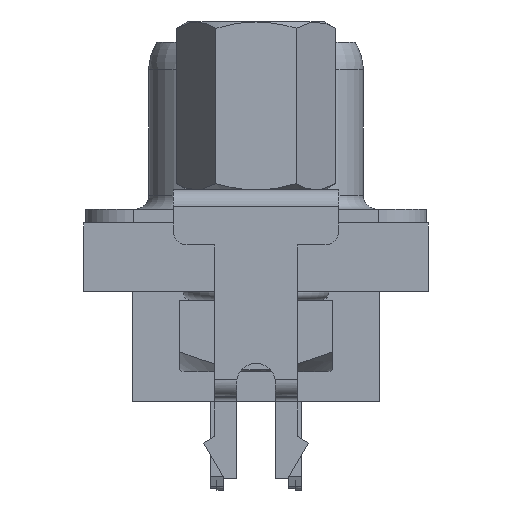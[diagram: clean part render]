
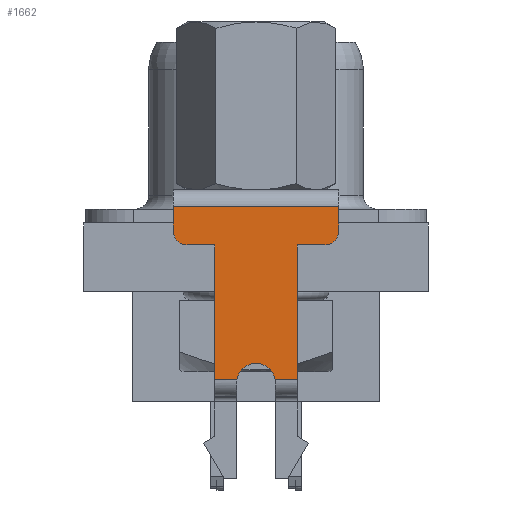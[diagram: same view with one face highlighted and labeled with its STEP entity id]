
A CAD part, left-side view. The second image highlights one B-rep face of the part: STEP entity #1662.
In plain terms, the highlighted planar face has unit normal (-1, 0, 0).
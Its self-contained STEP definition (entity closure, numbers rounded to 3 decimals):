
#243 = DIRECTION ( 'NONE',  ( 0., -1., 0. ) ) ;
#282 = VECTOR ( 'NONE', #8074, 1000. ) ;
#582 = DIRECTION ( 'NONE',  ( 0., 0., 1. ) ) ;
#718 = ORIENTED_EDGE ( 'NONE', *, *, #6877, .F. ) ;
#1061 = VERTEX_POINT ( 'NONE', #9682 ) ;
#1148 = DIRECTION ( 'NONE',  ( -1., 0., 0. ) ) ;
#1155 = ORIENTED_EDGE ( 'NONE', *, *, #9116, .F. ) ;
#1354 = LINE ( 'NONE', #11446, #282 ) ;
#1662 = ADVANCED_FACE ( 'NONE', ( #8067 ), #1905, .T. ) ;
#1827 = CARTESIAN_POINT ( 'NONE',  ( -20.16, -1.5, 1.7 ) ) ;
#1905 = PLANE ( 'NONE',  #10714 ) ;
#2019 = ORIENTED_EDGE ( 'NONE', *, *, #14939, .T. ) ;
#2081 = LINE ( 'NONE', #12753, #12515 ) ;
#2125 = VERTEX_POINT ( 'NONE', #1827 ) ;
#2364 = CARTESIAN_POINT ( 'NONE',  ( -20.16, -1.5, -3.2 ) ) ;
#2370 = CARTESIAN_POINT ( 'NONE',  ( -20.16, -3., 2.2 ) ) ;
#2427 = VERTEX_POINT ( 'NONE', #5953 ) ;
#2582 = ORIENTED_EDGE ( 'NONE', *, *, #16969, .T. ) ;
#3381 = ORIENTED_EDGE ( 'NONE', *, *, #5709, .T. ) ;
#3387 = AXIS2_PLACEMENT_3D ( 'NONE', #20520, #17302, #243 ) ;
#3630 = CIRCLE ( 'NONE', #3387, 0.5 ) ;
#3975 = LINE ( 'NONE', #20853, #9866 ) ;
#4484 = VECTOR ( 'NONE', #6021, 1000. ) ;
#4535 = ORIENTED_EDGE ( 'NONE', *, *, #5613, .T. ) ;
#5032 = VERTEX_POINT ( 'NONE', #15316 ) ;
#5190 = LINE ( 'NONE', #15696, #6806 ) ;
#5273 = DIRECTION ( 'NONE',  ( 0., 1., 0. ) ) ;
#5479 = EDGE_CURVE ( 'NONE', #12957, #21741, #3975, .T. ) ;
#5613 = EDGE_CURVE ( 'NONE', #7704, #1061, #20013, .T. ) ;
#5709 = EDGE_CURVE ( 'NONE', #21562, #2427, #17876, .T. ) ;
#5805 = DIRECTION ( 'NONE',  ( 0., -1., 0. ) ) ;
#5953 = CARTESIAN_POINT ( 'NONE',  ( -20.16, -3., 3.1 ) ) ;
#5963 = CARTESIAN_POINT ( 'NONE',  ( -20.16, -3., -6.8 ) ) ;
#6021 = DIRECTION ( 'NONE',  ( 0., 1., 0. ) ) ;
#6246 = LINE ( 'NONE', #18771, #13944 ) ;
#6480 = CARTESIAN_POINT ( 'NONE',  ( -20.16, 3., 2.2 ) ) ;
#6642 = VECTOR ( 'NONE', #14435, 1000. ) ;
#6774 = DIRECTION ( 'NONE',  ( -1., 0., 0. ) ) ;
#6806 = VECTOR ( 'NONE', #5273, 1000. ) ;
#6877 = EDGE_CURVE ( 'NONE', #7704, #5032, #7507, .T. ) ;
#7506 = DIRECTION ( 'NONE',  ( 0., -1., 0. ) ) ;
#7507 = CIRCLE ( 'NONE', #20255, 0.7 ) ;
#7536 = ORIENTED_EDGE ( 'NONE', *, *, #5479, .F. ) ;
#7647 = DIRECTION ( 'NONE',  ( -1., 0., 0. ) ) ;
#7704 = VERTEX_POINT ( 'NONE', #13668 ) ;
#7731 = CARTESIAN_POINT ( 'NONE',  ( -20.16, -3., 1.7 ) ) ;
#7973 = CIRCLE ( 'NONE', #10274, 0.5 ) ;
#8067 = FACE_OUTER_BOUND ( 'NONE', #19639, .T. ) ;
#8074 = DIRECTION ( 'NONE',  ( 0., -1., 0. ) ) ;
#8230 = VECTOR ( 'NONE', #19929, 1000. ) ;
#8581 = EDGE_CURVE ( 'NONE', #21843, #17294, #2081, .T. ) ;
#8680 = EDGE_CURVE ( 'NONE', #2427, #17294, #17599, .T. ) ;
#8774 = VECTOR ( 'NONE', #7506, 1000. ) ;
#8872 = EDGE_CURVE ( 'NONE', #19812, #21562, #7973, .T. ) ;
#9116 = EDGE_CURVE ( 'NONE', #19812, #2125, #16242, .T. ) ;
#9682 = CARTESIAN_POINT ( 'NONE',  ( -20.16, -1.5, -3.2 ) ) ;
#9866 = VECTOR ( 'NONE', #10612, 1000. ) ;
#10023 = ORIENTED_EDGE ( 'NONE', *, *, #8581, .F. ) ;
#10274 = AXIS2_PLACEMENT_3D ( 'NONE', #17004, #6774, #15484 ) ;
#10612 = DIRECTION ( 'NONE',  ( 0., 0., 1. ) ) ;
#10714 = AXIS2_PLACEMENT_3D ( 'NONE', #13837, #1148, #16840 ) ;
#11434 = CARTESIAN_POINT ( 'NONE',  ( -20.16, 1.5, -3.2 ) ) ;
#11446 = CARTESIAN_POINT ( 'NONE',  ( -20.16, 0.7, -3.2 ) ) ;
#11449 = ORIENTED_EDGE ( 'NONE', *, *, #17489, .F. ) ;
#12515 = VECTOR ( 'NONE', #582, 1000. ) ;
#12753 = CARTESIAN_POINT ( 'NONE',  ( -20.16, 3., -6.8 ) ) ;
#12817 = CARTESIAN_POINT ( 'NONE',  ( -20.16, 1.5, 1.7 ) ) ;
#12957 = VERTEX_POINT ( 'NONE', #11434 ) ;
#13668 = CARTESIAN_POINT ( 'NONE',  ( -20.16, -0.693, -3.2 ) ) ;
#13807 = ORIENTED_EDGE ( 'NONE', *, *, #17992, .F. ) ;
#13837 = CARTESIAN_POINT ( 'NONE',  ( -20.16, -3., -6.8 ) ) ;
#13944 = VECTOR ( 'NONE', #22230, 1000. ) ;
#14435 = DIRECTION ( 'NONE',  ( 0., 0., 1. ) ) ;
#14726 = CARTESIAN_POINT ( 'NONE',  ( -20.16, 3., 3.1 ) ) ;
#14939 = EDGE_CURVE ( 'NONE', #12957, #5032, #1354, .T. ) ;
#15316 = CARTESIAN_POINT ( 'NONE',  ( -20.16, 0.693, -3.2 ) ) ;
#15484 = DIRECTION ( 'NONE',  ( 0., -1., 0. ) ) ;
#15543 = CARTESIAN_POINT ( 'NONE',  ( -20.16, 2.5, 1.7 ) ) ;
#15696 = CARTESIAN_POINT ( 'NONE',  ( -20.16, 3., 1.7 ) ) ;
#16242 = LINE ( 'NONE', #7731, #4484 ) ;
#16840 = DIRECTION ( 'NONE',  ( 0., -1., 0. ) ) ;
#16969 = EDGE_CURVE ( 'NONE', #21843, #17570, #3630, .T. ) ;
#17004 = CARTESIAN_POINT ( 'NONE',  ( -20.16, -2.5, 2.2 ) ) ;
#17294 = VERTEX_POINT ( 'NONE', #14726 ) ;
#17302 = DIRECTION ( 'NONE',  ( -1., 0., 0. ) ) ;
#17489 = EDGE_CURVE ( 'NONE', #21741, #17570, #5190, .T. ) ;
#17570 = VERTEX_POINT ( 'NONE', #15543 ) ;
#17599 = LINE ( 'NONE', #19854, #8230 ) ;
#17606 = CARTESIAN_POINT ( 'NONE',  ( -20.16, -2.5, 1.7 ) ) ;
#17634 = ORIENTED_EDGE ( 'NONE', *, *, #8872, .T. ) ;
#17876 = LINE ( 'NONE', #5963, #6642 ) ;
#17992 = EDGE_CURVE ( 'NONE', #2125, #1061, #6246, .T. ) ;
#18771 = CARTESIAN_POINT ( 'NONE',  ( -20.16, -1.5, 1.7 ) ) ;
#19619 = CARTESIAN_POINT ( 'NONE',  ( -20.16, 0., -3.3 ) ) ;
#19639 = EDGE_LOOP ( 'NONE', ( #718, #4535, #13807, #1155, #17634, #3381, #20502, #10023, #2582, #11449, #7536, #2019 ) ) ;
#19812 = VERTEX_POINT ( 'NONE', #17606 ) ;
#19854 = CARTESIAN_POINT ( 'NONE',  ( -20.16, -3., 3.1 ) ) ;
#19929 = DIRECTION ( 'NONE',  ( 0., 1., 0. ) ) ;
#20013 = LINE ( 'NONE', #2364, #8774 ) ;
#20255 = AXIS2_PLACEMENT_3D ( 'NONE', #19619, #7647, #5805 ) ;
#20502 = ORIENTED_EDGE ( 'NONE', *, *, #8680, .T. ) ;
#20520 = CARTESIAN_POINT ( 'NONE',  ( -20.16, 2.5, 2.2 ) ) ;
#20853 = CARTESIAN_POINT ( 'NONE',  ( -20.16, 1.5, 1.7 ) ) ;
#21562 = VERTEX_POINT ( 'NONE', #2370 ) ;
#21741 = VERTEX_POINT ( 'NONE', #12817 ) ;
#21843 = VERTEX_POINT ( 'NONE', #6480 ) ;
#22230 = DIRECTION ( 'NONE',  ( 0., 0., -1. ) ) ;
